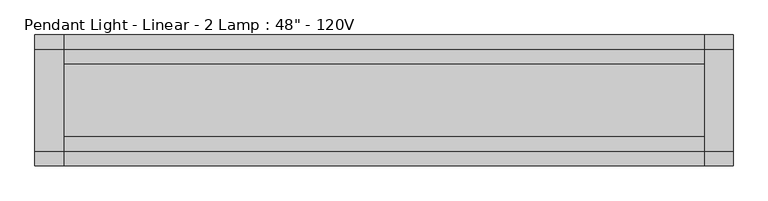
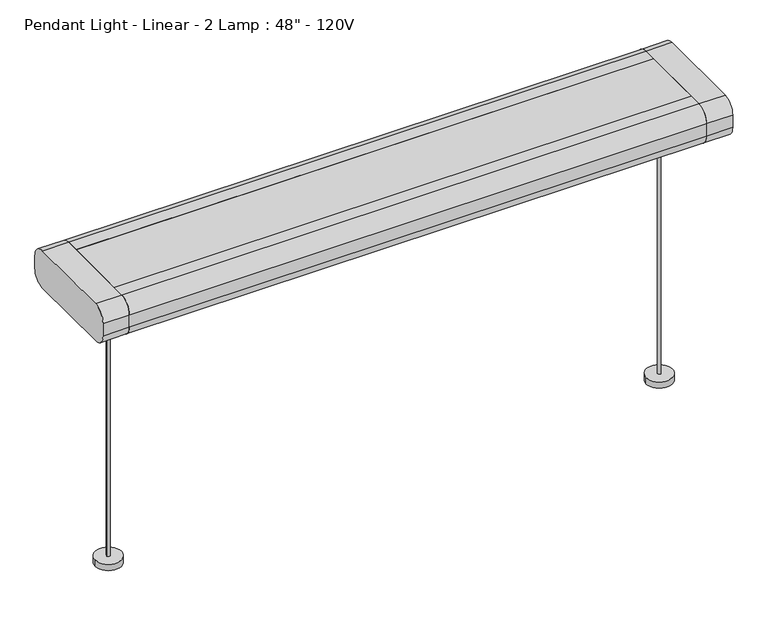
"""IFC4 building model written with IfcOpenShell, lengths in millimetres: light fixture geometry."""

from ifc_helpers import new_model, si_unit, point, frame, frame_2d, origin, origin_with_axes, place, context, project, spatial, polyline, circle_curve, trimmed, segment, composite_curve, outline, extrude, source, transform, mapped, element, save


def light_fixture_b06bbfae(model_context):
    return source(origin(), model_context, "Body", "SweptSolid", [
        extrude(outline(composite_curve([segment(polyline([(114.3, 584.2), (114.3, 558.8)]), True, "CONTINUOUS"), segment(trimmed(circle_curve(frame_2d((88.9, 558.8)), 25.4), [point((114.3, 558.8))], [point((88.9, 533.4))], False, "CARTESIAN"), True, "CONTINUOUS"), segment(polyline([(88.9, 533.4), (-88.9, 533.4)]), True, "CONTINUOUS"), segment(trimmed(circle_curve(frame_2d((-88.9, 558.8)), 25.4), [point((-88.9, 533.4))], [point((-114.3, 558.8))], False, "CARTESIAN"), True, "CONTINUOUS"), segment(polyline([(-114.3, 558.8), (-114.3, 584.2)]), True, "CONTINUOUS"), segment(trimmed(circle_curve(frame_2d((-88.9, 584.2)), 25.4), [point((-114.3, 584.2))], [point((-88.9, 609.6))], False, "CARTESIAN"), True, "CONTINUOUS"), segment(polyline([(-88.9, 609.6), (-63.5, 609.6), (-63.5, 584.2), (63.5, 584.2), (63.5, 609.6), (88.9, 609.6)]), True, "CONTINUOUS"), segment(trimmed(circle_curve(frame_2d((88.9, 584.2)), 25.4), [point((88.9, 609.6))], [point((114.3, 584.2))], False, "CARTESIAN"), True, "CONTINUOUS")], self_intersect=False)), frame((-558.8, 0.0, 0.0), z_axis=(1.0, 0.0, 0.0), x_axis=(0.0, 1.0, 0.0)), (0.0, 0.0, 1.0), 1117.6),
        extrude(outline(polyline([(558.8, 63.5), (558.8, -63.5), (-558.8, -63.5), (-558.8, 63.5), (558.8, 63.5)])), frame((0.0, 0.0, 607.8476735), z_axis=(0.0, 0.0, 1.0), x_axis=(1.0, 0.0, 0.0)), (0.0, 0.0, 1.0), 1.7523265),
        extrude(outline(composite_curve([segment(trimmed(circle_curve(frame_2d((533.4, 0.0)), 25.4), [point((508.0, 0.0))], [point((558.8, 0.0))], False, "CARTESIAN"), True, "CONTINUOUS"), segment(trimmed(circle_curve(frame_2d((533.4, 0.0)), 25.4), [point((558.8, 0.0))], [point((508.0, 0.0))], False, "CARTESIAN"), True, "CONTINUOUS")], self_intersect=False)), origin_with_axes(), (0.0, 0.0, 1.0), 12.7),
        extrude(outline(composite_curve([segment(trimmed(circle_curve(frame_2d((-533.4, 0.0)), 25.4), [point((-558.8, 0.0))], [point((-508.0, 0.0))], False, "CARTESIAN"), True, "CONTINUOUS"), segment(trimmed(circle_curve(frame_2d((-533.4, 0.0)), 25.4), [point((-508.0, 0.0))], [point((-558.8, 0.0))], False, "CARTESIAN"), True, "CONTINUOUS")], self_intersect=False)), origin_with_axes(), (0.0, 0.0, 1.0), 12.7),
        extrude(outline(composite_curve([segment(trimmed(circle_curve(frame_2d((-88.9, 584.2)), 25.4), [point((-114.3, 584.2))], [point((-88.9, 609.6))], False, "CARTESIAN"), True, "CONTINUOUS"), segment(polyline([(-88.9, 609.6), (88.9, 609.6)]), True, "CONTINUOUS"), segment(trimmed(circle_curve(frame_2d((88.9, 584.2)), 25.4), [point((88.9, 609.6))], [point((114.3, 584.2))], False, "CARTESIAN"), True, "CONTINUOUS"), segment(polyline([(114.3, 584.2), (114.3, 558.8)]), True, "CONTINUOUS"), segment(trimmed(circle_curve(frame_2d((88.9, 558.8)), 25.4), [point((114.3, 558.8))], [point((88.9, 533.4))], False, "CARTESIAN"), True, "CONTINUOUS"), segment(polyline([(88.9, 533.4), (-88.9, 533.4)]), True, "CONTINUOUS"), segment(trimmed(circle_curve(frame_2d((-88.9, 558.8)), 25.4), [point((-88.9, 533.4))], [point((-114.3, 558.8))], False, "CARTESIAN"), True, "CONTINUOUS"), segment(polyline([(-114.3, 558.8), (-114.3, 584.2)]), True, "CONTINUOUS")], self_intersect=False)), frame((558.8, 0.0, 0.0), z_axis=(1.0, 0.0, 0.0), x_axis=(0.0, 1.0, 0.0)), (0.0, 0.0, 1.0), 50.8),
        extrude(outline(composite_curve([segment(polyline([(114.3, 584.2), (114.3, 558.8)]), True, "CONTINUOUS"), segment(trimmed(circle_curve(frame_2d((88.9, 558.8)), 25.4), [point((114.3, 558.8))], [point((88.9, 533.4))], False, "CARTESIAN"), True, "CONTINUOUS"), segment(polyline([(88.9, 533.4), (-88.9, 533.4)]), True, "CONTINUOUS"), segment(trimmed(circle_curve(frame_2d((-88.9, 558.8)), 25.4), [point((-88.9, 533.4))], [point((-114.3, 558.8))], False, "CARTESIAN"), True, "CONTINUOUS"), segment(polyline([(-114.3, 558.8), (-114.3, 584.2)]), True, "CONTINUOUS"), segment(trimmed(circle_curve(frame_2d((-88.9, 584.2)), 25.4), [point((-114.3, 584.2))], [point((-88.9, 609.6))], False, "CARTESIAN"), True, "CONTINUOUS"), segment(polyline([(-88.9, 609.6), (88.9, 609.6)]), True, "CONTINUOUS"), segment(trimmed(circle_curve(frame_2d((88.9, 584.2)), 25.4), [point((88.9, 609.6))], [point((114.3, 584.2))], False, "CARTESIAN"), True, "CONTINUOUS")], self_intersect=False)), frame((-609.6, 0.0, 0.0), z_axis=(1.0, 0.0, 0.0), x_axis=(0.0, 1.0, 0.0)), (0.0, 0.0, 1.0), 50.8),
        extrude(outline(composite_curve([segment(trimmed(circle_curve(frame_2d((533.4, 0.0)), 3.1340604), [point((530.2659396, 0.0))], [point((536.5340604, 0.0))], False, "CARTESIAN"), True, "CONTINUOUS"), segment(trimmed(circle_curve(frame_2d((533.4, 0.0)), 3.1340604), [point((536.5340604, 0.0))], [point((530.2659396, 0.0))], False, "CARTESIAN"), True, "CONTINUOUS")], self_intersect=False)), origin_with_axes(), (0.0, 0.0, 1.0), 533.4),
        extrude(outline(composite_curve([segment(trimmed(circle_curve(frame_2d((-533.4, 0.0)), 3.175), [point((-536.575, 0.0))], [point((-530.225, 0.0))], False, "CARTESIAN"), True, "CONTINUOUS"), segment(trimmed(circle_curve(frame_2d((-533.4, 0.0)), 3.175), [point((-530.225, 0.0))], [point((-536.575, 0.0))], False, "CARTESIAN"), True, "CONTINUOUS")], self_intersect=False)), origin_with_axes(), (0.0, 0.0, 1.0), 533.4),
    ])


if __name__ == "__main__":
    model = new_model("IFC4")
    model_context = context("Model", 3, world=origin())
    ifc_project = project(units=[si_unit("LENGTHUNIT", "METRE", prefix="MILLI")], contexts=[model_context])
    site = spatial("IfcSite", under=ifc_project)
    building = spatial("IfcBuilding", under=site)
    placement = place(None, origin())
    light_fixture_shape = light_fixture_b06bbfae(model_context)
    element("IfcLightFixture", 1, ObjectType="Pendant Light - Linear - 2 Lamp : 48\" - 120V", at=placement, inside=building, context=model_context, shape_type="MappedRepresentation", body=[
        mapped(light_fixture_shape, transform((0.0, 0.0, 0.0), x_axis=(1.0, 0.0, 0.0), y_axis=(0.0, 1.0, 0.0), z_axis=(0.0, 0.0, 1.0))),
    ])
    save(model, "model.ifc")
